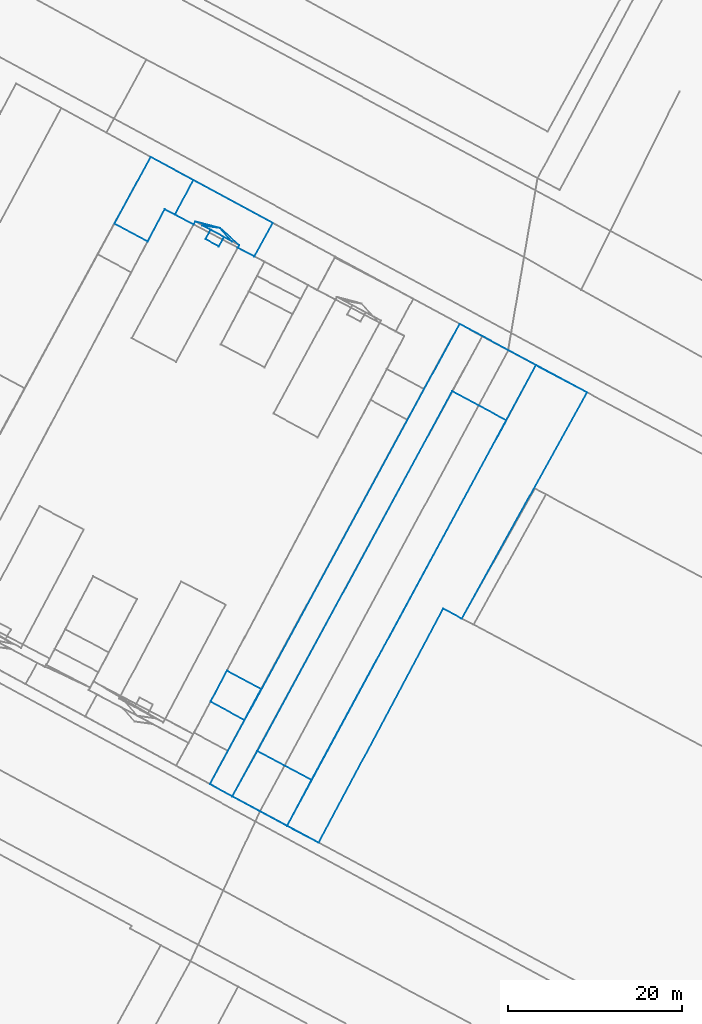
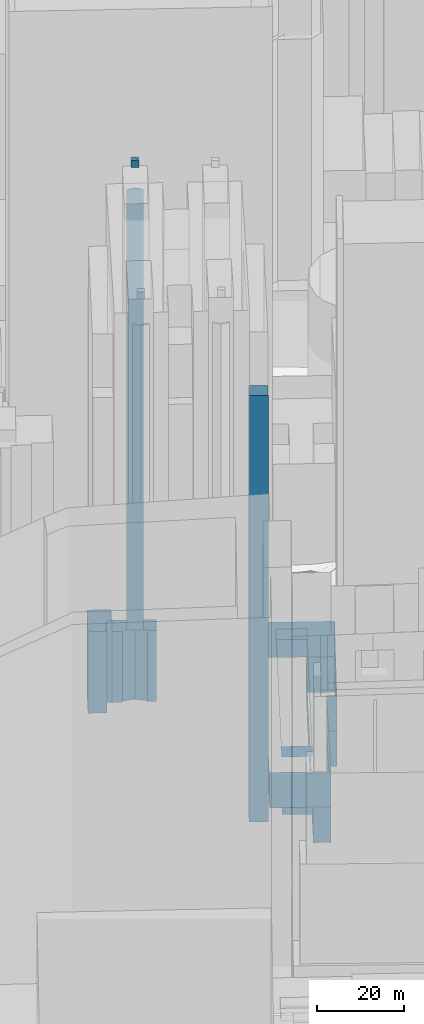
# Not in any storey, part 20 of 80: 9 walls.
"""IFC4 building model written with IfcOpenShell, lengths in metres."""

from ifc_helpers import new_model, si_unit, frame, origin_with_axes, place, context, subcontext, project, spatial, polygons, element, save


model = new_model("IFC4")

# Units and contexts
model_context = context("Model", 3, precision=1e-05, world=origin_with_axes())
body_context = subcontext(model_context, "Body", "Model", "MODEL_VIEW")
ifc_project = project(units=[si_unit("AREAUNIT", "SQUARE_METRE"), si_unit("LENGTHUNIT", "METRE")], contexts=[model_context])

# Sites, building
site_1_placement = place(None, origin_with_axes())
site_1 = spatial("IfcSite", under=ifc_project, at=site_1_placement, Name="Topoexport Site")
site_2_placement = place(site_1_placement, origin_with_axes())
site_2 = spatial("IfcSite", under=site_1, at=site_2_placement, Name="TPX_BATIMENTS")
building_1_placement = place(site_2_placement, frame((117.977917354, 107.1295738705, 28.6103156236), z_axis=(0.0, 0.0, 1.0), x_axis=(1.0, 0.0, 0.0)))
building_1 = spatial("IfcBuilding", under=site_2, at=building_1_placement, Name="Batiment 27", CompositionType="ELEMENT")

# Wall
wall_1_placement = place(None, frame((117.977917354, 107.1295738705, 28.6103156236), z_axis=(0.0, 0.0, 1.0), x_axis=(1.0, 0.0, 0.0)))
element("IfcWall", 1, at=wall_1_placement, inside=building_1, Name="Mur 0", context=body_context, shape_type="Tessellation", body=[
    polygons([(0.0, 0.0, 0.0), (6.3201951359, -3.4126857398, 0.0), (9.1372634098, 1.8825086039, 0.0), (2.9022495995, 5.2295679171, 0.0), (0.0, 0.0, 2.0), (6.3201951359, -3.4126857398, 2.0), (9.1372634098, 1.8825086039, 2.0), (2.9022495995, 5.2295679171, 2.0)], [[[6, 5, 2]], [[2, 5, 1]], [[7, 6, 3]], [[3, 6, 2]], [[5, 8, 1]], [[1, 8, 4]], [[8, 7, 4]], [[4, 7, 3]]]),
])

# Building
building_2_placement = place(site_2_placement, frame((115.4875749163, 118.0363623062, 20.7911243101), z_axis=(0.0, 0.0, 1.0), x_axis=(1.0, 0.0, 0.0)))
building_2 = spatial("IfcBuilding", under=site_2, at=building_2_placement, Name="Batiment 35", CompositionType="ELEMENT")

# Wall
wall_2_placement = place(None, frame((115.4875749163, 118.0363623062, 20.7911243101), z_axis=(0.0, 0.0, 1.0), x_axis=(1.0, 0.0, 0.0)))
element("IfcWall", 2, at=wall_2_placement, inside=building_2, Name="Mur 0", context=body_context, shape_type="Tessellation", body=[
    polygons([(0.0, 0.0, 0.0), (3.8991819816, -2.1085420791, 0.0), (5.8246692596, 1.4554440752, 0.0), (1.8915978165, 3.5746936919, 0.0), (0.0, 0.0, 120.0), (3.8991819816, -2.1085420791, 120.0), (5.8246692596, 1.4554440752, 120.0), (1.8915978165, 3.5746936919, 120.0)], [[[6, 5, 2]], [[2, 5, 1]], [[7, 6, 3]], [[3, 6, 2]], [[5, 8, 1]], [[1, 8, 4]], [[8, 7, 4]], [[4, 7, 3]]]),
])

# Building
building_3_placement = place(site_2_placement, frame((124.2981124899, 103.7168881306, 20.5602683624), z_axis=(0.0, 0.0, 1.0), x_axis=(1.0, 0.0, 0.0)))
building_3 = spatial("IfcBuilding", under=site_2, at=building_3_placement, Name="Batiment 43", CompositionType="ELEMENT")

# Wall
wall_3_placement = place(None, frame((124.2981124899, 103.7168881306, 20.5602683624), z_axis=(0.0, 0.0, 1.0), x_axis=(1.0, 0.0, 0.0)))
element("IfcWall", 3, at=wall_3_placement, inside=building_3, Name="Mur 0", context=body_context, shape_type="Tessellation", body=[
    polygons([(0.0, 0.0, 0.0), (3.6522260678, -1.9226684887, 0.0), (18.0018064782, 25.0559943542, 0.0), (20.1510385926, 23.8930274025, 0.0), (34.5701681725, 49.9621498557, 0.0), (28.6922531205, 53.0912869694, 0.0), (0.0, 0.0, 10.0), (3.6522260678, -1.9226684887, 10.0), (18.0018064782, 25.0559943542, 10.0), (20.1510385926, 23.8930274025, 10.0), (34.5701681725, 49.9621498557, 10.0), (28.6922531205, 53.0912869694, 10.0)], [[[8, 7, 2]], [[2, 7, 1]], [[9, 8, 3]], [[3, 8, 2]], [[10, 9, 4]], [[4, 9, 3]], [[11, 10, 5]], [[5, 10, 4]], [[7, 12, 1]], [[1, 12, 6]], [[12, 11, 6]], [[6, 11, 5]]]),
])

# Building
building_4_placement = place(site_2_placement, frame((115.4207049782, 108.532058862, 30.5602683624), z_axis=(0.0, 0.0, 1.0), x_axis=(1.0, 0.0, 0.0)))
building_4 = spatial("IfcBuilding", under=site_2, at=building_4_placement, Name="Batiment 47", CompositionType="ELEMENT")

# Wall
wall_4_placement = place(None, frame((115.4207049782, 108.532058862, 30.5602683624), z_axis=(0.0, 0.0, 1.0), x_axis=(1.0, 0.0, 0.0)))
element("IfcWall", 4, at=wall_4_placement, inside=building_4, Name="Mur 0", context=body_context, shape_type="Tessellation", body=[
    polygons([(0.0, 0.0, 0.0), (12.5296335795, -6.7378392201, 0.0), (26.8792139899, 20.2408236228, 0.0), (29.0284461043, 19.0778566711, 0.0), (43.4475756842, 45.1469791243, 0.0), (28.7687753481, 53.0477319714, 0.0), (0.0, 0.0, 10.0), (12.5296335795, -6.7378392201, 10.0), (26.8792139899, 20.2408236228, 10.0), (29.0284461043, 19.0778566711, 10.0), (43.4475756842, 45.1469791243, 10.0), (28.7687753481, 53.0477319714, 10.0)], [[[8, 7, 2]], [[2, 7, 1]], [[9, 8, 3]], [[3, 8, 2]], [[10, 9, 4]], [[4, 9, 3]], [[11, 10, 5]], [[5, 10, 4]], [[7, 12, 1]], [[1, 12, 6]], [[12, 11, 6]], [[6, 11, 5]]]),
])

# Building
building_5_placement = place(site_2_placement, frame((120.8801669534, 112.3591417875, 40.6481645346), z_axis=(0.0, 0.0, 1.0), x_axis=(1.0, 0.0, 0.0)))
building_5 = spatial("IfcBuilding", under=site_2, at=building_5_placement, Name="Batiment 48", CompositionType="ELEMENT")

# Wall
wall_5_placement = place(None, frame((120.8801669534, 112.3591417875, 40.6481645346), z_axis=(0.0, 0.0, 1.0), x_axis=(1.0, 0.0, 0.0)))
element("IfcWall", 5, at=wall_5_placement, inside=building_5, Name="Mur 0", context=body_context, shape_type="Tessellation", body=[
    polygons([(0.0, 0.0, 0.0), (6.2350138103, -3.3470593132, 0.0), (28.6975847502, 38.1032951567, 0.0), (22.4624654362, 41.461436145, 0.0), (0.0, 0.0, 3.0), (6.2350138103, -3.3470593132, 3.0), (28.6975847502, 38.1032951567, 3.0), (22.4624654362, 41.461436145, 3.0)], [[[6, 5, 2]], [[2, 5, 1]], [[7, 6, 3]], [[3, 6, 2]], [[5, 8, 1]], [[1, 8, 4]], [[8, 7, 4]], [[4, 7, 3]]]),
])

# Building
building_6_placement = place(site_2_placement, frame((114.5459395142, 172.9371592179, 41.8919622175), z_axis=(0.0, 0.0, 1.0), x_axis=(1.0, 0.0, 0.0)))
building_6 = spatial("IfcBuilding", under=site_2, at=building_6_placement, Name="Batiment 54", CompositionType="ELEMENT")

# Wall
wall_6_placement = place(None, frame((114.5459395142, 172.9371592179, 41.8919622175), z_axis=(0.0, 0.0, 1.0), x_axis=(1.0, 0.0, 0.0)))
element("IfcWall", 6, at=wall_6_placement, inside=building_6, Name="Mur 0", context=body_context, shape_type="Tessellation", body=[
    polygons([(0.0, 0.0, 0.0), (2.4804532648, -1.3367629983, 0.0), (3.4318372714, -1.8475169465, 0.0), (2.0464414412, -0.3092952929, 0.0), (0.0, 0.0, 124.0), (2.4804532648, -1.3367629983, 124.0), (3.4318372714, -1.8475169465, 124.0), (2.0464414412, -0.3092952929, 124.0)], [[[6, 5, 2]], [[2, 5, 1]], [[7, 6, 3]], [[3, 6, 2]], [[5, 8, 1]], [[1, 8, 4]], [[8, 7, 4]], [[4, 7, 3]]]),
])

# Building
building_7_placement = place(site_2_placement, frame((114.9105640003, 171.3426705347, 172.8731858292), z_axis=(0.0, 0.0, 1.0), x_axis=(1.0, 0.0, 0.0)))
building_7 = spatial("IfcBuilding", under=site_2, at=building_7_placement, Name="Batiment 55", CompositionType="ELEMENT")

# Wall
wall_7_placement = place(None, frame((114.9105640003, 171.3426705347, 172.8731858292), z_axis=(0.0, 0.0, 1.0), x_axis=(1.0, 0.0, 0.0)))
element("IfcWall", 7, at=wall_7_placement, inside=building_7, Name="Mur 0", context=body_context, shape_type="Tessellation", body=[
    polygons([(0.0, 0.0, 0.0), (1.529069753, -0.8260088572, 0.0), (2.1158287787, 0.2577256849, 0.0), (0.5867591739, 1.0837344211, 0.0), (0.0, 0.0, 2.0), (1.529069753, -0.8260088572, 2.0), (2.1158287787, 0.2577256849, 2.0), (0.5867591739, 1.0837344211, 2.0)], [[[6, 5, 2]], [[2, 5, 1]], [[7, 6, 3]], [[3, 6, 2]], [[5, 8, 1]], [[1, 8, 4]], [[8, 7, 4]], [[4, 7, 3]]]),
])

# Building
building_8_placement = place(site_2_placement, frame((111.3914170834, 174.1661728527, 21.831197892), z_axis=(0.0, 0.0, 1.0), x_axis=(1.0, 0.0, 0.0)))
building_8 = spatial("IfcBuilding", under=site_2, at=building_8_placement, Name="Batiment 67", CompositionType="ELEMENT")

# Wall
wall_8_placement = place(None, frame((111.3914170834, 174.1661728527, 21.831197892), z_axis=(0.0, 0.0, 1.0), x_axis=(1.0, 0.0, 0.0)))
element("IfcWall", 8, at=wall_8_placement, inside=building_8, Name="Mur 0", context=body_context, shape_type="Tessellation", body=[
    polygons([(0.0, 0.0, 0.0), (2.1403869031, -1.1297715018, 0.0), (2.3305183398, -0.7833931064, 0.0), (5.2009638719, -1.5383089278, 0.0), (7.4103643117, -3.5221506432, 0.0), (7.2449094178, -3.8127312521, 0.0), (9.1388508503, -4.8010344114, 0.0), (11.2550985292, -0.9461725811, 0.0), (2.1061341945, 3.9990709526, 0.0), (0.0, 0.0, 20.0), (2.1403869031, -1.1297715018, 20.0), (2.3305183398, -0.7833931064, 20.0), (5.2009638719, -1.5383089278, 20.0), (7.4103643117, -3.5221506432, 20.0), (7.2449094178, -3.8127312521, 20.0), (9.1388508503, -4.8010344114, 20.0), (11.2550985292, -0.9461725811, 20.0), (2.1061341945, 3.9990709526, 20.0)], [[[11, 10, 2]], [[2, 10, 1]], [[12, 11, 3]], [[3, 11, 2]], [[13, 12, 4]], [[4, 12, 3]], [[14, 13, 5]], [[5, 13, 4]], [[15, 14, 6]], [[6, 14, 5]], [[16, 15, 7]], [[7, 15, 6]], [[17, 16, 8]], [[8, 16, 7]], [[10, 18, 1]], [[1, 18, 9]], [[18, 17, 9]], [[9, 17, 8]]]),
])

# Building
building_9_placement = place(site_2_placement, frame((104.4137399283, 173.1414332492, 21.8630474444), z_axis=(0.0, 0.0, 1.0), x_axis=(1.0, 0.0, 0.0)))
building_9 = spatial("IfcBuilding", under=site_2, at=building_9_placement, Name="Batiment 68", CompositionType="ELEMENT")

# Wall
wall_9_placement = place(None, frame((104.4137399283, 173.1414332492, 21.8630474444), z_axis=(0.0, 0.0, 1.0), x_axis=(1.0, 0.0, 0.0)))
element("IfcWall", 9, at=wall_9_placement, inside=building_9, Name="Mur 0", context=body_context, shape_type="Tessellation", body=[
    polygons([(0.0, 0.0, 0.0), (3.8311114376, -2.06492888, 0.0), (5.7971142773, 1.6438548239, 0.0), (6.9776771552, 1.0247396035, 0.0), (9.0838113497, 5.0238105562, 0.0), (4.1738115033, 7.6757264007, 0.0), (0.0, 0.0, 23.0), (3.8311114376, -2.06492888, 23.0), (5.7971142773, 1.6438548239, 23.0), (6.9776771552, 1.0247396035, 23.0), (9.0838113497, 5.0238105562, 23.0), (4.1738115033, 7.6757264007, 23.0)], [[[8, 7, 2]], [[2, 7, 1]], [[9, 8, 3]], [[3, 8, 2]], [[10, 9, 4]], [[4, 9, 3]], [[11, 10, 5]], [[5, 10, 4]], [[7, 12, 1]], [[1, 12, 6]], [[12, 11, 6]], [[6, 11, 5]]]),
])

save(model, "model.ifc")
